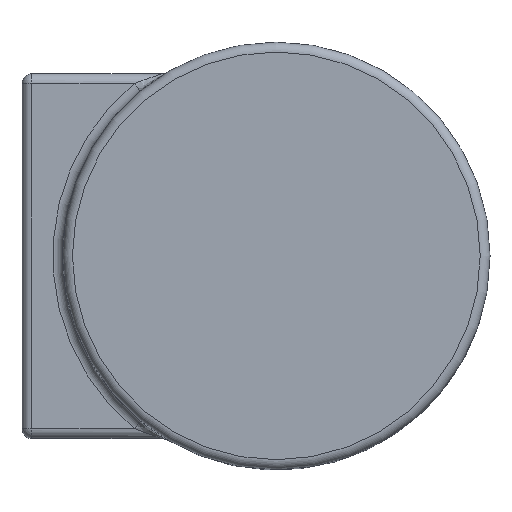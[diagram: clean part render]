
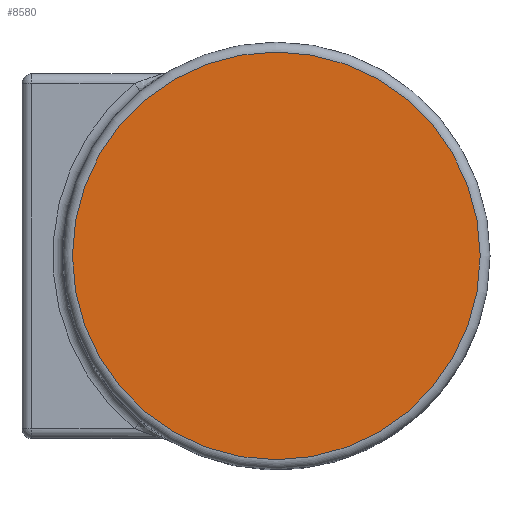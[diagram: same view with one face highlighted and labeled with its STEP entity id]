
A CAD part, top view. The second image highlights one B-rep face of the part: STEP entity #8580.
In plain terms, the highlighted planar face has unit normal (0, 0, 1).
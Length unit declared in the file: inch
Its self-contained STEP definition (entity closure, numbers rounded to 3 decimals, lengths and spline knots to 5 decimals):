
#7539=FACE_OUTER_BOUND('',#10163,.T.);
#8580=ADVANCED_FACE('',(#7539),#9119,.T.);
#9119=PLANE('',#19427);
#10163=EDGE_LOOP('',(#14110));
#14110=ORIENTED_EDGE('',*,*,#17487,.T.);
#15505=VERTEX_POINT('',#27967);
#17487=EDGE_CURVE('',#15505,#15505,#18036,.T.);
#18036=CIRCLE('',#19426,10.3935);
#19426=AXIS2_PLACEMENT_3D('',#27966,#23580,#23581);
#19427=AXIS2_PLACEMENT_3D('',#27968,#23582,#23583);
#23580=DIRECTION('',(0.,0.,1.));
#23581=DIRECTION('',(1.,0.,0.));
#23582=DIRECTION('',(0.,0.,1.));
#23583=DIRECTION('',(1.,0.,0.));
#27966=CARTESIAN_POINT('',(25.,25.,34.8));
#27967=CARTESIAN_POINT('',(35.3935,25.,34.8));
#27968=CARTESIAN_POINT('',(25.,25.,34.8));
